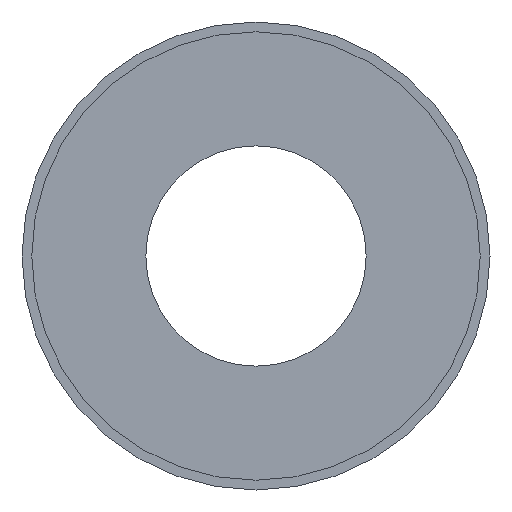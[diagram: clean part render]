
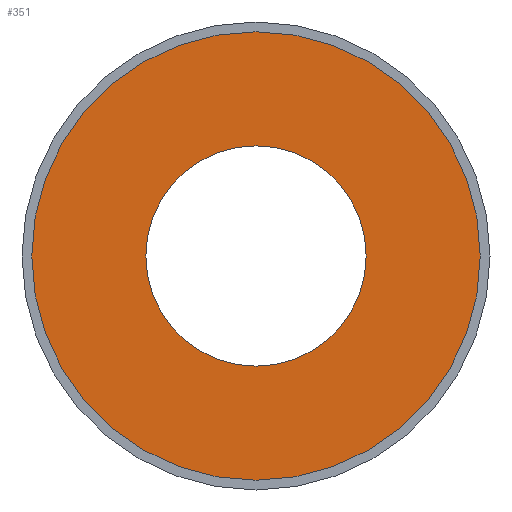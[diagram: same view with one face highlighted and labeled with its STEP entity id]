
A CAD part, front view. The second image highlights one B-rep face of the part: STEP entity #351.
In plain terms, the highlighted planar face has unit normal (0, -1, 0).
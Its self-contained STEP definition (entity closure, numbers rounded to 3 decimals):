
#4 = VERTEX_POINT ( 'NONE', #319 ) ;
#5 = AXIS2_PLACEMENT_3D ( 'NONE', #299, #356, #237 ) ;
#6 = EDGE_CURVE ( 'NONE', #64, #4, #97, .T. ) ;
#8 = PLANE ( 'NONE',  #5 ) ;
#23 = DIRECTION ( 'NONE',  ( 0., 0., -1. ) ) ;
#27 = EDGE_LOOP ( 'NONE', ( #310, #80 ) ) ;
#33 = AXIS2_PLACEMENT_3D ( 'NONE', #282, #277, #370 ) ;
#44 = FACE_BOUND ( 'NONE', #52, .T. ) ;
#49 = CIRCLE ( 'NONE', #146, 11.3 ) ;
#52 = EDGE_LOOP ( 'NONE', ( #371, #170 ) ) ;
#61 = CIRCLE ( 'NONE', #33, 23. ) ;
#64 = VERTEX_POINT ( 'NONE', #122 ) ;
#80 = ORIENTED_EDGE ( 'NONE', *, *, #6, .T. ) ;
#89 = CARTESIAN_POINT ( 'NONE',  ( 0., 2.54, -11.3 ) ) ;
#90 = DIRECTION ( 'NONE',  ( 0., 0., -1. ) ) ;
#91 = CARTESIAN_POINT ( 'NONE',  ( 0., 2.54, 11.3 ) ) ;
#97 = CIRCLE ( 'NONE', #296, 23. ) ;
#104 = CIRCLE ( 'NONE', #345, 11.3 ) ;
#122 = CARTESIAN_POINT ( 'NONE',  ( 0., 2.54, 23. ) ) ;
#127 = DIRECTION ( 'NONE',  ( 0., 0., -1. ) ) ;
#146 = AXIS2_PLACEMENT_3D ( 'NONE', #239, #359, #127 ) ;
#148 = CARTESIAN_POINT ( 'NONE',  ( 0., 2.54, 0. ) ) ;
#168 = VERTEX_POINT ( 'NONE', #89 ) ;
#170 = ORIENTED_EDGE ( 'NONE', *, *, #333, .F. ) ;
#179 = CARTESIAN_POINT ( 'NONE',  ( 0., 2.54, 0. ) ) ;
#181 = FACE_OUTER_BOUND ( 'NONE', #27, .T. ) ;
#191 = EDGE_CURVE ( 'NONE', #168, #353, #104, .T. ) ;
#237 = DIRECTION ( 'NONE',  ( 0., 0., -1. ) ) ;
#238 = DIRECTION ( 'NONE',  ( 0., -1., 0. ) ) ;
#239 = CARTESIAN_POINT ( 'NONE',  ( 0., 2.54, 0. ) ) ;
#263 = DIRECTION ( 'NONE',  ( 0., -1., 0. ) ) ;
#277 = DIRECTION ( 'NONE',  ( 0., -1., 0. ) ) ;
#282 = CARTESIAN_POINT ( 'NONE',  ( 0., 2.54, 0. ) ) ;
#296 = AXIS2_PLACEMENT_3D ( 'NONE', #179, #238, #90 ) ;
#299 = CARTESIAN_POINT ( 'NONE',  ( 11.3, 2.54, 0. ) ) ;
#310 = ORIENTED_EDGE ( 'NONE', *, *, #373, .T. ) ;
#319 = CARTESIAN_POINT ( 'NONE',  ( 0., 2.54, -23. ) ) ;
#333 = EDGE_CURVE ( 'NONE', #353, #168, #49, .T. ) ;
#345 = AXIS2_PLACEMENT_3D ( 'NONE', #148, #263, #23 ) ;
#351 = ADVANCED_FACE ( 'NONE', ( #181, #44 ), #8, .T. ) ;
#353 = VERTEX_POINT ( 'NONE', #91 ) ;
#356 = DIRECTION ( 'NONE',  ( 0., -1., 0. ) ) ;
#359 = DIRECTION ( 'NONE',  ( 0., -1., 0. ) ) ;
#370 = DIRECTION ( 'NONE',  ( 0., 0., -1. ) ) ;
#371 = ORIENTED_EDGE ( 'NONE', *, *, #191, .F. ) ;
#373 = EDGE_CURVE ( 'NONE', #4, #64, #61, .T. ) ;
